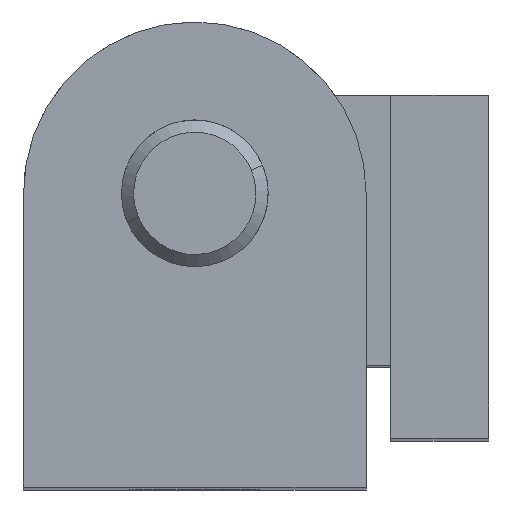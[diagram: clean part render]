
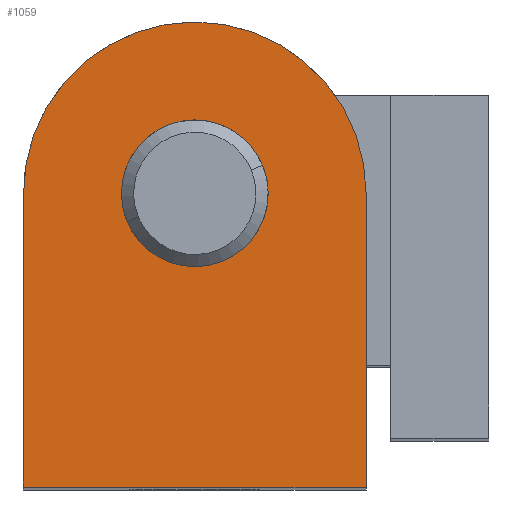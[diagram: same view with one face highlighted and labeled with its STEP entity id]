
A CAD part, top view. The second image highlights one B-rep face of the part: STEP entity #1059.
In plain terms, the highlighted planar face has unit normal (0, 0, 1).
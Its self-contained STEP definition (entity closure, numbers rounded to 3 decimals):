
#109 = EDGE_CURVE ( 'NONE', #2364, #6475, #2046, .T. ) ;
#392 = EDGE_CURVE ( 'NONE', #4213, #2364, #1679, .T. ) ;
#635 = FACE_BOUND ( 'NONE', #5561, .T. ) ;
#643 = FACE_OUTER_BOUND ( 'NONE', #3014, .T. ) ;
#707 = DIRECTION ( 'NONE',  ( 1., 0., 0. ) ) ;
#731 = CARTESIAN_POINT ( 'NONE',  ( 0., -12., 35. ) ) ;
#856 = DIRECTION ( 'NONE',  ( 0., 0., 1. ) ) ;
#1059 = ADVANCED_FACE ( 'NONE', ( #643, #635 ), #2804, .T. ) ;
#1299 = DIRECTION ( 'NONE',  ( 0., -1., 0. ) ) ;
#1387 = CARTESIAN_POINT ( 'NONE',  ( -3., 0., 35. ) ) ;
#1662 = VECTOR ( 'NONE', #6148, 1000. ) ;
#1679 = LINE ( 'NONE', #4143, #1662 ) ;
#2041 = EDGE_CURVE ( 'NONE', #6475, #2198, #5577, .T. ) ;
#2046 = CIRCLE ( 'NONE', #3408, 7. ) ;
#2198 = VERTEX_POINT ( 'NONE', #2609 ) ;
#2292 = ORIENTED_EDGE ( 'NONE', *, *, #109, .T. ) ;
#2308 = ORIENTED_EDGE ( 'NONE', *, *, #392, .T. ) ;
#2364 = VERTEX_POINT ( 'NONE', #4056 ) ;
#2428 = ORIENTED_EDGE ( 'NONE', *, *, #2041, .T. ) ;
#2497 = ORIENTED_EDGE ( 'NONE', *, *, #2567, .T. ) ;
#2563 = VERTEX_POINT ( 'NONE', #1387 ) ;
#2567 = EDGE_CURVE ( 'NONE', #2198, #4213, #4260, .T. ) ;
#2604 = ORIENTED_EDGE ( 'NONE', *, *, #4921, .F. ) ;
#2609 = CARTESIAN_POINT ( 'NONE',  ( -7., -12., 35. ) ) ;
#2720 = ORIENTED_EDGE ( 'NONE', *, *, #2943, .F. ) ;
#2804 = PLANE ( 'NONE',  #4370 ) ;
#2815 = DIRECTION ( 'NONE',  ( 0., 0., 1. ) ) ;
#2844 = CARTESIAN_POINT ( 'NONE',  ( 0., 0., 35. ) ) ;
#2902 = AXIS2_PLACEMENT_3D ( 'NONE', #3900, #3585, #4646 ) ;
#2943 = EDGE_CURVE ( 'NONE', #5882, #2563, #3029, .T. ) ;
#3014 = EDGE_LOOP ( 'NONE', ( #2308, #2292, #2428, #2497 ) ) ;
#3029 = CIRCLE ( 'NONE', #2902, 3. ) ;
#3161 = CARTESIAN_POINT ( 'NONE',  ( 0., 0., 35. ) ) ;
#3176 = DIRECTION ( 'NONE',  ( 1., 0., 0. ) ) ;
#3408 = AXIS2_PLACEMENT_3D ( 'NONE', #4401, #4502, #4488 ) ;
#3483 = CARTESIAN_POINT ( 'NONE',  ( -7., 0., 35. ) ) ;
#3585 = DIRECTION ( 'NONE',  ( 0., 0., 1. ) ) ;
#3651 = CARTESIAN_POINT ( 'NONE',  ( -7., 0., 35. ) ) ;
#3871 = VECTOR ( 'NONE', #707, 1000. ) ;
#3895 = DIRECTION ( 'NONE',  ( 1., 0., 0. ) ) ;
#3900 = CARTESIAN_POINT ( 'NONE',  ( 0., 0., 35. ) ) ;
#4025 = AXIS2_PLACEMENT_3D ( 'NONE', #3161, #856, #3895 ) ;
#4056 = CARTESIAN_POINT ( 'NONE',  ( 7., 0., 35. ) ) ;
#4143 = CARTESIAN_POINT ( 'NONE',  ( 7., 0., 35. ) ) ;
#4213 = VERTEX_POINT ( 'NONE', #4929 ) ;
#4260 = LINE ( 'NONE', #731, #3871 ) ;
#4370 = AXIS2_PLACEMENT_3D ( 'NONE', #2844, #2815, #3176 ) ;
#4401 = CARTESIAN_POINT ( 'NONE',  ( 0., 0., 35. ) ) ;
#4488 = DIRECTION ( 'NONE',  ( 1., 0., 0. ) ) ;
#4502 = DIRECTION ( 'NONE',  ( 0., 0., 1. ) ) ;
#4646 = DIRECTION ( 'NONE',  ( 1., 0., 0. ) ) ;
#4921 = EDGE_CURVE ( 'NONE', #2563, #5882, #5624, .T. ) ;
#4929 = CARTESIAN_POINT ( 'NONE',  ( 7., -12., 35. ) ) ;
#5440 = VECTOR ( 'NONE', #1299, 1000. ) ;
#5545 = CARTESIAN_POINT ( 'NONE',  ( 3., 0., 35. ) ) ;
#5561 = EDGE_LOOP ( 'NONE', ( #2720, #2604 ) ) ;
#5577 = LINE ( 'NONE', #3483, #5440 ) ;
#5624 = CIRCLE ( 'NONE', #4025, 3. ) ;
#5882 = VERTEX_POINT ( 'NONE', #5545 ) ;
#6148 = DIRECTION ( 'NONE',  ( 0., 1., 0. ) ) ;
#6475 = VERTEX_POINT ( 'NONE', #3651 ) ;
